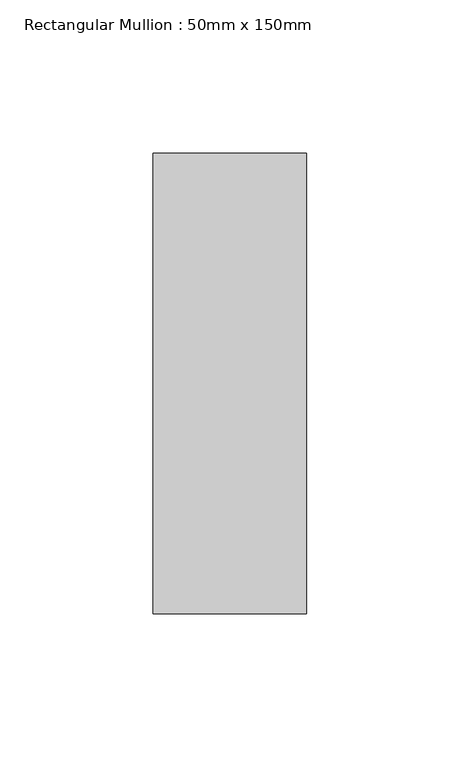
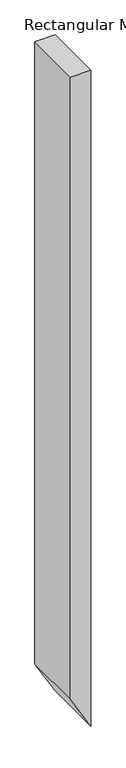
"""IFC4 building model written with IfcOpenShell, lengths in millimetres: member geometry, Rectangular Mullion : 50mm x 150mm."""

from ifc_helpers import new_model, si_unit, frame, origin, place, context, project, spatial, polyline, outline, extrude, source, transform, mapped, element, save


def rectangular_mullion_50mm_x_150mm_bd56b2c9(model_context):
    return source(origin(), model_context, "Body", "SweptSolid", [
        extrude(outline(polyline([(0.0, 0.0), (0.0, -50.0), (-1603.7405731, -50.0), (-1690.3431135, 0.0), (0.0, 0.0)])), frame((0.0, -75.0, 0.0), z_axis=(0.0, 1.0, 0.0), x_axis=(0.0, 0.0, 1.0)), (0.0, 0.0, 1.0), 150.0),
    ])


if __name__ == "__main__":
    model = new_model("IFC4")
    model_context = context("Model", 3, world=origin())
    ifc_project = project(units=[si_unit("LENGTHUNIT", "METRE", prefix="MILLI")], contexts=[model_context])
    site = spatial("IfcSite", under=ifc_project)
    building = spatial("IfcBuilding", under=site)
    placement = place(None, origin())
    rectangular_mullion_50mm_x_150mm_shape = rectangular_mullion_50mm_x_150mm_bd56b2c9(model_context)
    element("IfcMember", 1, ObjectType="Rectangular Mullion : 50mm x 150mm", at=placement, inside=building, context=model_context, shape_type="MappedRepresentation", body=[
        mapped(rectangular_mullion_50mm_x_150mm_shape, transform((0.0, 0.0, 0.0), x_axis=(1.0, 0.0, 0.0), y_axis=(0.0, 1.0, 0.0), z_axis=(0.0, 0.0, 1.0))),
    ])
    save(model, "model.ifc")
